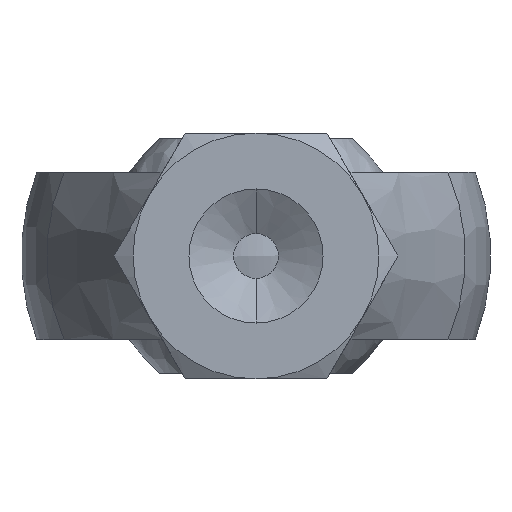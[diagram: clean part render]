
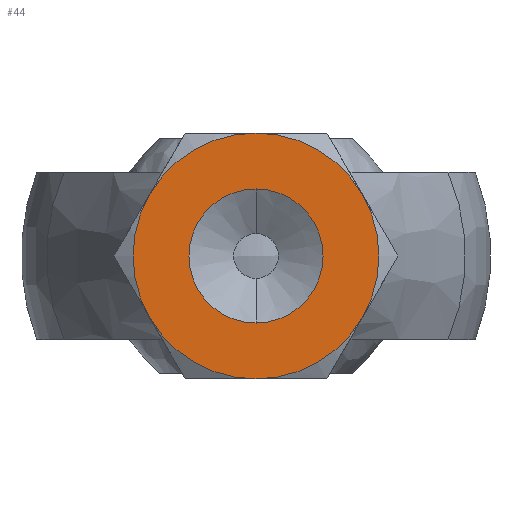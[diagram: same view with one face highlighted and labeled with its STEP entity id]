
A CAD part, front view. The second image highlights one B-rep face of the part: STEP entity #44.
In plain terms, the highlighted planar face has unit normal (0, -1, 0).
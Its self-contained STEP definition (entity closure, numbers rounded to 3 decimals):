
#17 = EDGE_CURVE ( 'NONE', #75, #39, #254, .T. ) ;
#20 = EDGE_CURVE ( 'NONE', #39, #32, #262, .T. ) ;
#23 = ORIENTED_EDGE ( 'NONE', *, *, #36, .F. ) ;
#27 = ORIENTED_EDGE ( 'NONE', *, *, #40, .F. ) ;
#32 = VERTEX_POINT ( 'NONE', #290 ) ;
#36 = EDGE_CURVE ( 'NONE', #32, #47, #338, .T. ) ;
#38 = ORIENTED_EDGE ( 'NONE', *, *, #17, .F. ) ;
#39 = VERTEX_POINT ( 'NONE', #330 ) ;
#40 = EDGE_CURVE ( 'NONE', #47, #41, #323, .T. ) ;
#41 = VERTEX_POINT ( 'NONE', #327 ) ;
#43 = ORIENTED_EDGE ( 'NONE', *, *, #49, .F. ) ;
#44 = ADVANCED_FACE ( 'NONE', ( #313, #282 ), #322, .T. ) ;
#45 = ORIENTED_EDGE ( 'NONE', *, *, #59, .T. ) ;
#47 = VERTEX_POINT ( 'NONE', #357 ) ;
#49 = EDGE_CURVE ( 'NONE', #41, #65, #356, .T. ) ;
#53 = EDGE_LOOP ( 'NONE', ( #64, #45 ) ) ;
#56 = ORIENTED_EDGE ( 'NONE', *, *, #77, .T. ) ;
#59 = EDGE_CURVE ( 'NONE', #2187, #2235, #358, .T. ) ;
#64 = ORIENTED_EDGE ( 'NONE', *, *, #2231, .T. ) ;
#65 = VERTEX_POINT ( 'NONE', #376 ) ;
#66 = ORIENTED_EDGE ( 'NONE', *, *, #20, .F. ) ;
#75 = VERTEX_POINT ( 'NONE', #399 ) ;
#77 = EDGE_CURVE ( 'NONE', #75, #65, #397, .T. ) ;
#82 = EDGE_LOOP ( 'NONE', ( #56, #43, #27, #23, #66, #38 ) ) ;
#254 = CIRCLE ( 'NONE', #300, 11. ) ;
#262 = CIRCLE ( 'NONE', #292, 11. ) ;
#282 = FACE_OUTER_BOUND ( 'NONE', #82, .T. ) ;
#287 = DIRECTION ( 'NONE',  ( 0., 0., 1. ) ) ;
#288 = DIRECTION ( 'NONE',  ( 0., 1., 0. ) ) ;
#290 = CARTESIAN_POINT ( 'NONE',  ( -9.526, -64., -5.5 ) ) ;
#291 = AXIS2_PLACEMENT_3D ( 'NONE', #329, #325, #324 ) ;
#292 = AXIS2_PLACEMENT_3D ( 'NONE', #306, #288, #287 ) ;
#297 = DIRECTION ( 'NONE',  ( 0., 0., 1. ) ) ;
#298 = DIRECTION ( 'NONE',  ( 0., 1., 0. ) ) ;
#300 = AXIS2_PLACEMENT_3D ( 'NONE', #305, #298, #297 ) ;
#305 = CARTESIAN_POINT ( 'NONE',  ( 0., -64., 0. ) ) ;
#306 = CARTESIAN_POINT ( 'NONE',  ( 0., -64., 0. ) ) ;
#312 = CARTESIAN_POINT ( 'NONE',  ( 11.132, -64., -11. ) ) ;
#313 = FACE_BOUND ( 'NONE', #53, .T. ) ;
#318 = DIRECTION ( 'NONE',  ( 0., 0., 1. ) ) ;
#319 = DIRECTION ( 'NONE',  ( 0., 1., 0. ) ) ;
#320 = CARTESIAN_POINT ( 'NONE',  ( 0., -64., 0. ) ) ;
#321 = AXIS2_PLACEMENT_3D ( 'NONE', #320, #319, #318 ) ;
#322 = PLANE ( 'NONE',  #328 ) ;
#323 = CIRCLE ( 'NONE', #321, 11. ) ;
#324 = DIRECTION ( 'NONE',  ( 0., 0., 1. ) ) ;
#325 = DIRECTION ( 'NONE',  ( 0., 1., 0. ) ) ;
#326 = CARTESIAN_POINT ( 'NONE',  ( 0., -64., 0. ) ) ;
#327 = CARTESIAN_POINT ( 'NONE',  ( 0., -64., 11. ) ) ;
#328 = AXIS2_PLACEMENT_3D ( 'NONE', #312, #362, #361 ) ;
#329 = CARTESIAN_POINT ( 'NONE',  ( 0., -64., 0. ) ) ;
#330 = CARTESIAN_POINT ( 'NONE',  ( 0., -64., -11. ) ) ;
#338 = CIRCLE ( 'NONE', #291, 11. ) ;
#341 = DIRECTION ( 'NONE',  ( 0., 0., -1. ) ) ;
#342 = DIRECTION ( 'NONE',  ( 0., 1., 0. ) ) ;
#344 = AXIS2_PLACEMENT_3D ( 'NONE', #350, #342, #341 ) ;
#350 = CARTESIAN_POINT ( 'NONE',  ( 0., -64., 0. ) ) ;
#353 = DIRECTION ( 'NONE',  ( 0., 0., 1. ) ) ;
#354 = DIRECTION ( 'NONE',  ( 0., 1., 0. ) ) ;
#355 = AXIS2_PLACEMENT_3D ( 'NONE', #326, #354, #353 ) ;
#356 = CIRCLE ( 'NONE', #355, 11. ) ;
#357 = CARTESIAN_POINT ( 'NONE',  ( -9.526, -64., 5.5 ) ) ;
#358 = CIRCLE ( 'NONE', #344, 6. ) ;
#361 = DIRECTION ( 'NONE',  ( 0., 0., 1. ) ) ;
#362 = DIRECTION ( 'NONE',  ( 0., -1., 0. ) ) ;
#376 = CARTESIAN_POINT ( 'NONE',  ( 9.526, -64., 5.5 ) ) ;
#388 = AXIS2_PLACEMENT_3D ( 'NONE', #390, #442, #441 ) ;
#390 = CARTESIAN_POINT ( 'NONE',  ( 0., -64., 0. ) ) ;
#397 = CIRCLE ( 'NONE', #388, 11. ) ;
#399 = CARTESIAN_POINT ( 'NONE',  ( 9.526, -64., -5.5 ) ) ;
#441 = DIRECTION ( 'NONE',  ( 0., 0., 1. ) ) ;
#442 = DIRECTION ( 'NONE',  ( 0., -1., 0. ) ) ;
#1822 = CARTESIAN_POINT ( 'NONE',  ( 0., -64., 6. ) ) ;
#1868 = AXIS2_PLACEMENT_3D ( 'NONE', #1921, #1908, #1907 ) ;
#1906 = CARTESIAN_POINT ( 'NONE',  ( 0., -64., -6. ) ) ;
#1907 = DIRECTION ( 'NONE',  ( 0., 0., -1. ) ) ;
#1908 = DIRECTION ( 'NONE',  ( 0., 1., 0. ) ) ;
#1919 = CIRCLE ( 'NONE', #1868, 6. ) ;
#1921 = CARTESIAN_POINT ( 'NONE',  ( 0., -64., 0. ) ) ;
#2187 = VERTEX_POINT ( 'NONE', #1822 ) ;
#2231 = EDGE_CURVE ( 'NONE', #2235, #2187, #1919, .T. ) ;
#2235 = VERTEX_POINT ( 'NONE', #1906 ) ;
